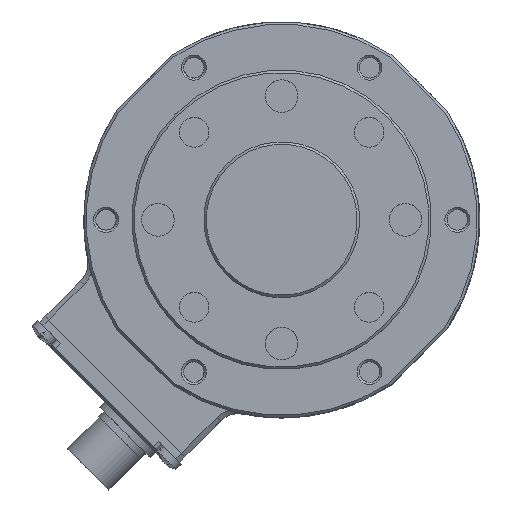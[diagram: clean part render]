
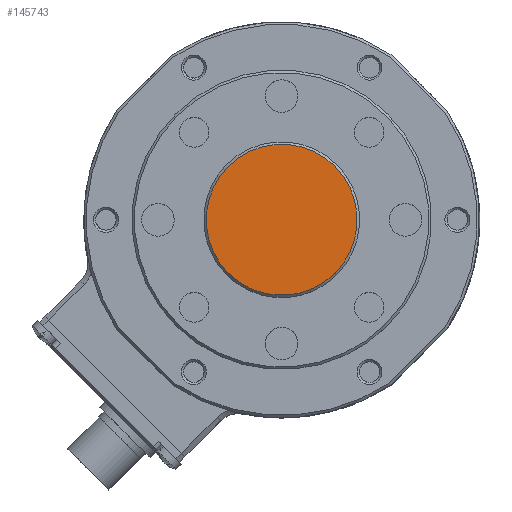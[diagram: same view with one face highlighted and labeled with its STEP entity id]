
A CAD part, top view. The second image highlights one B-rep face of the part: STEP entity #145743.
In plain terms, the highlighted planar face has unit normal (0, 0, 1).
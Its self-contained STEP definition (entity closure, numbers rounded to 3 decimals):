
#7969 = DIRECTION ( 'NONE',  ( 1., 0., 0. ) ) ;
#11050 = PLANE ( 'NONE',  #158129 ) ;
#18197 = DIRECTION ( 'NONE',  ( 0., 0., 1. ) ) ;
#33634 = VERTEX_POINT ( 'NONE', #167442 ) ;
#35214 = EDGE_LOOP ( 'NONE', ( #120449, #150900 ) ) ;
#59808 = CARTESIAN_POINT ( 'NONE',  ( 0., 0., 16. ) ) ;
#60726 = VERTEX_POINT ( 'NONE', #153810 ) ;
#68787 = EDGE_CURVE ( 'NONE', #60726, #33634, #76073, .T. ) ;
#76073 = CIRCLE ( 'NONE', #103642, 15.25 ) ;
#76723 = FACE_OUTER_BOUND ( 'NONE', #35214, .T. ) ;
#77568 = CARTESIAN_POINT ( 'NONE',  ( 0., 0., 16. ) ) ;
#86176 = EDGE_CURVE ( 'NONE', #33634, #60726, #121241, .T. ) ;
#91383 = DIRECTION ( 'NONE',  ( 0., 0., 1. ) ) ;
#96495 = DIRECTION ( 'NONE',  ( 1., 0., 0. ) ) ;
#99535 = DIRECTION ( 'NONE',  ( 0., 0., 1. ) ) ;
#103642 = AXIS2_PLACEMENT_3D ( 'NONE', #146088, #18197, #161604 ) ;
#120449 = ORIENTED_EDGE ( 'NONE', *, *, #68787, .T. ) ;
#121241 = CIRCLE ( 'NONE', #162580, 15.25 ) ;
#145743 = ADVANCED_FACE ( 'NONE', ( #76723 ), #11050, .T. ) ;
#146088 = CARTESIAN_POINT ( 'NONE',  ( 0., 0., 16. ) ) ;
#150900 = ORIENTED_EDGE ( 'NONE', *, *, #86176, .T. ) ;
#153810 = CARTESIAN_POINT ( 'NONE',  ( -15.25, 0., 16. ) ) ;
#158129 = AXIS2_PLACEMENT_3D ( 'NONE', #77568, #91383, #96495 ) ;
#161604 = DIRECTION ( 'NONE',  ( 1., 0., 0. ) ) ;
#162580 = AXIS2_PLACEMENT_3D ( 'NONE', #59808, #99535, #7969 ) ;
#167442 = CARTESIAN_POINT ( 'NONE',  ( 15.25, 0., 16. ) ) ;
